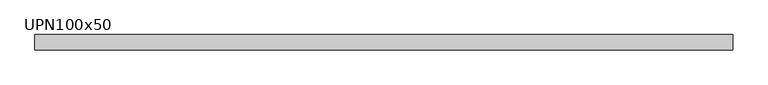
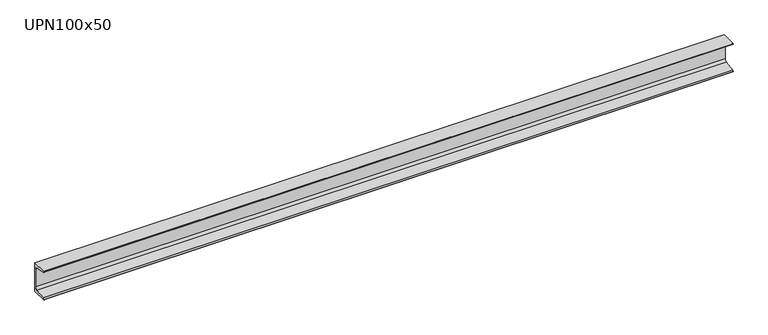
"""IFC4 building model written with IfcOpenShell, lengths in millimetres: beam geometry, M_MC Shapes : UPN100x50."""

from ifc_helpers import new_model, si_unit, point, frame, frame_2d, origin, place, context, project, spatial, polyline, circle_curve, trimmed, segment, composite_curve, outline, extrude, source, transform, mapped, element, save


def upn100x50_1668a3c5(model_context):
    return source(origin(), model_context, "Body", "SweptSolid", [
        extrude(outline(composite_curve([segment(polyline([(10.9, 50.0), (10.9, -50.0), (-39.1, -50.0), (-39.1, -49.0253247)]), True, "CONTINUOUS"), segment(trimmed(circle_curve(frame_2d((-35.15, -49.0253247)), 3.95), [point((-39.1, -49.0253247))], [point((-35.7993773, -45.1290689))], False, "CARTESIAN"), True, "CONTINUOUS"), segment(polyline([(-35.7993773, -45.1290689), (-0.2512455, -39.2043685)]), True, "CONTINUOUS"), segment(trimmed(circle_curve(frame_2d((-1.55, -31.4118569)), 7.9), [point((-0.2512455, -39.2043685))], [point((6.35, -31.4118569))], True, "CARTESIAN"), True, "CONTINUOUS"), segment(polyline([(6.35, -31.4118569), (6.35, 31.4118569)]), True, "CONTINUOUS"), segment(trimmed(circle_curve(frame_2d((-1.55, 31.4118569)), 7.9), [point((6.35, 31.4118569))], [point((-0.2512455, 39.2043685))], True, "CARTESIAN"), True, "CONTINUOUS"), segment(polyline([(-0.2512455, 39.2043685), (-35.7993773, 45.1290689)]), True, "CONTINUOUS"), segment(trimmed(circle_curve(frame_2d((-35.15, 49.0253247)), 3.95), [point((-35.7993773, 45.1290689))], [point((-39.1, 49.0253247))], False, "CARTESIAN"), True, "CONTINUOUS"), segment(polyline([(-39.1, 49.0253247), (-39.1, 50.0), (10.9, 50.0)]), True, "CONTINUOUS")], self_intersect=False)), frame((-1145.85, 0.0, 0.0), z_axis=(1.0, 0.0, 0.0), x_axis=(0.0, 1.0, 0.0)), (0.0, 0.0, 1.0), 2291.7),
    ])


if __name__ == "__main__":
    model = new_model("IFC4")
    model_context = context("Model", 3, world=origin())
    ifc_project = project(units=[si_unit("LENGTHUNIT", "METRE", prefix="MILLI")], contexts=[model_context])
    site = spatial("IfcSite", under=ifc_project)
    building = spatial("IfcBuilding", under=site)
    placement = place(None, origin())
    upn100x50_shape = upn100x50_1668a3c5(model_context)
    element("IfcBeam", 1, ObjectType="M_MC Shapes : UPN100x50", at=placement, inside=building, context=model_context, shape_type="MappedRepresentation", body=[
        mapped(upn100x50_shape, transform((0.0, 0.0, 0.0), x_axis=(1.0, 0.0, 0.0), y_axis=(0.0, 1.0, 0.0), z_axis=(0.0, 0.0, 1.0))),
    ])
    save(model, "model.ifc")
